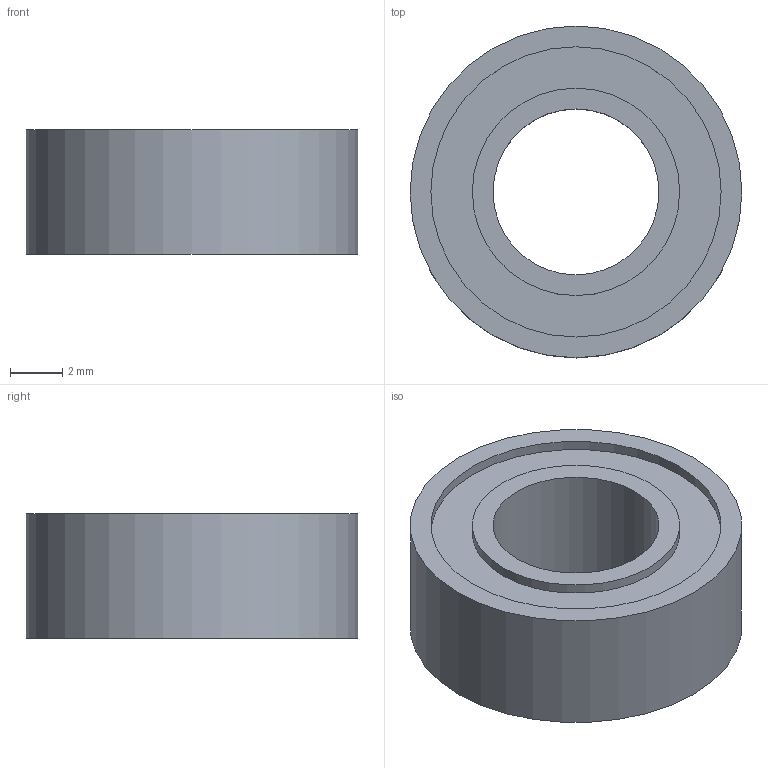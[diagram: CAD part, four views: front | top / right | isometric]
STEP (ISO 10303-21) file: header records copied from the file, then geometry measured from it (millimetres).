
FILE_DESCRIPTION(/* description */ ('STEP AP242 Edition 2','CAx-IF Rec.Pracs.---Representation and Presentation of Product Manufacturing Information (PMI)---4.0---2014-10-13','CAx-IF Rec.Pracs.---3D Tessellated Geometry---0.4---2014-09-14','2;1','CAx-IF Rec.Pracs.---User Defined Attributes---1.5---2016-08-15'),/* implementation_level */ '2;1');
FILE_NAME(/* name */ 'Main - 0.25- ID Bearing (0.5- OD, 0.188- WD, Shielded) (1)',/* time_stamp */ '2026-09-13T15:49:55Z',/* author */ (''),/* organization */ (''),/* preprocessor_version */ 'ST-DEVELOPER v20',/* originating_system */ 'ONSHAPE BY PTC INC, 1.220',/* authorisation */ ' ');
FILE_SCHEMA (('AP242_MANAGED_MODEL_BASED_3D_ENGINEERING_MIM_LF { 1 0 10303 442 3 1 4 }'));
Length unit declared in the file: metre
Products named in the file (1): 0.25" ID Bearing (0.5" OD, 0.188" WD, Shielded)
Bounding box: 12.7 x 12.7 x 4.76 mm (x, y, z)
Volume: 416.3 mm3; surface area: 520.6 mm2
Topology: 1 solids, 1 shells, 12 faces, 18 edges, 12 vertices
Faces by surface type: cylinder 6, plane 6
Full cylindrical faces by diameter (mm): 6.35 x1, 7.938 x2, 11.113 x2, 12.7 x1
Entity records: 285 total; most frequent: DIRECTION 50, CARTESIAN_POINT 37, AXIS2_PLACEMENT_3D 25, ORIENTED_EDGE 24, EDGE_LOOP 24, FACE_BOUND 24, EDGE_CURVE 12, VERTEX_POINT 12
